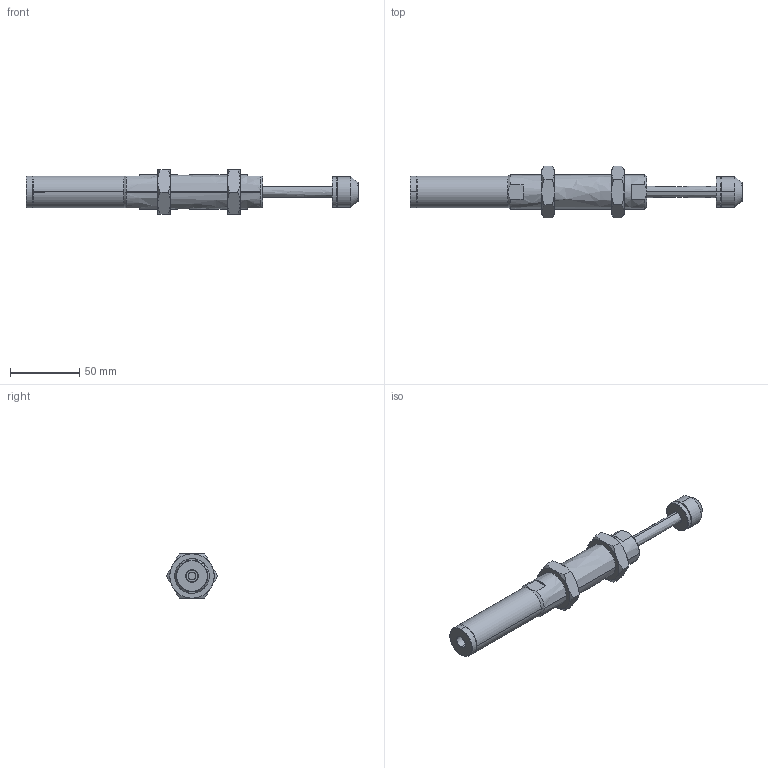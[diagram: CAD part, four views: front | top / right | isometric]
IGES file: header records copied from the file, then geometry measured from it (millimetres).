
Start section: SolidWorks IGES file using analytic representation for surfaces
Global section: file name: D:\IGS跡宒\AC2550.IGS,1; native system: 5HSolidWorks 2013; preprocessor: SolidWorks 2013; author: Administrator; date: 160406.152403; units: inch
Bounding box: 239.2 x 36.95 x 32 mm (x, y, z)
Surface area: 22551.3 mm2 (no closed solid volume)
Topology: 0 solids, 0 shells, 107 faces, 1706 edges, 1706 vertices
Faces by surface type: revolution 73, bspline 34
